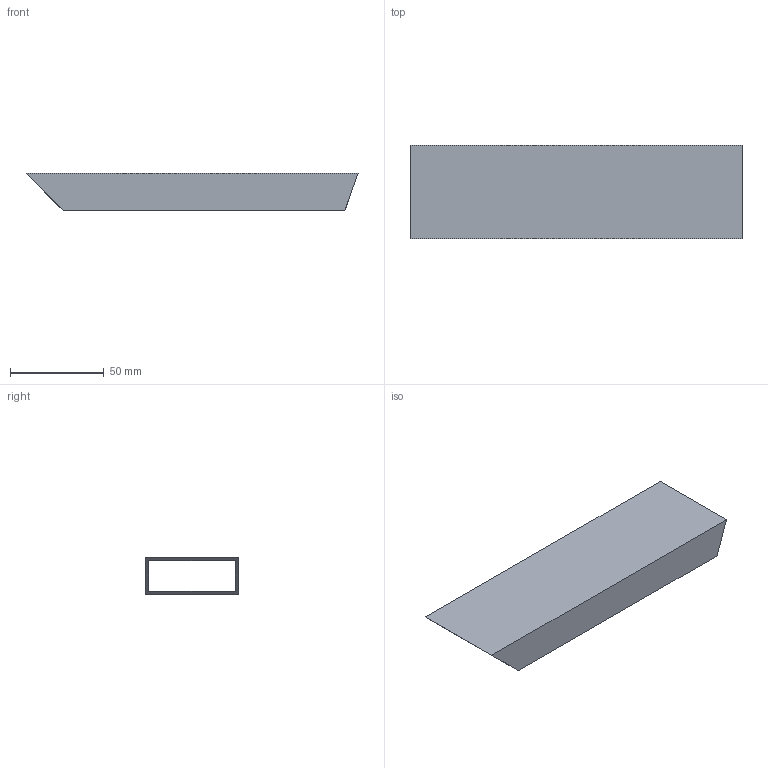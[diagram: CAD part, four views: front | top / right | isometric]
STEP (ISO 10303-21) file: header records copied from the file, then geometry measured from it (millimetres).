
FILE_DESCRIPTION(/* description */ (''),/* implementation_level */ '2;1');
FILE_NAME(/* name */ 'Pos130-Koker 50x20x2 EN 10219-2-S235JRH-1st',/* time_stamp */ '2024-08-06T13:49:48+02:00',/* author */ (''),/* organization */ (''),/* preprocessor_version */ 'ST-DEVELOPER v16.5',/* originating_system */ 'HiCAD 2024 2901.2 Build 361',/* authorisation */ '');
FILE_SCHEMA (('AUTOMOTIVE_DESIGN { 1 0 10303 214 1 1 1 1 }'));
Length unit declared in the file: millimetre
Products named in the file (1): Pos130-Koker 50x20x2 EN 10219-2-S235JRH-1st
Bounding box: 176.87 x 50 x 20 mm (x, y, z)
Volume: 43118.9 mm3; surface area: 43772.3 mm2
Topology: 1 solids, 1 shells, 10 faces, 24 edges, 16 vertices
Faces by surface type: plane 10
Entity records: 550 total; most frequent: CARTESIAN_POINT 50, PRESENTATION_STYLE_ASSIGNMENT 49, COLOUR_RGB 49, DRAUGHTING_PRE_DEFINED_CURVE_FONT 48, CURVE_STYLE 48, OVER_RIDING_STYLED_ITEM 48, ORIENTED_EDGE 48, DIRECTION 44
